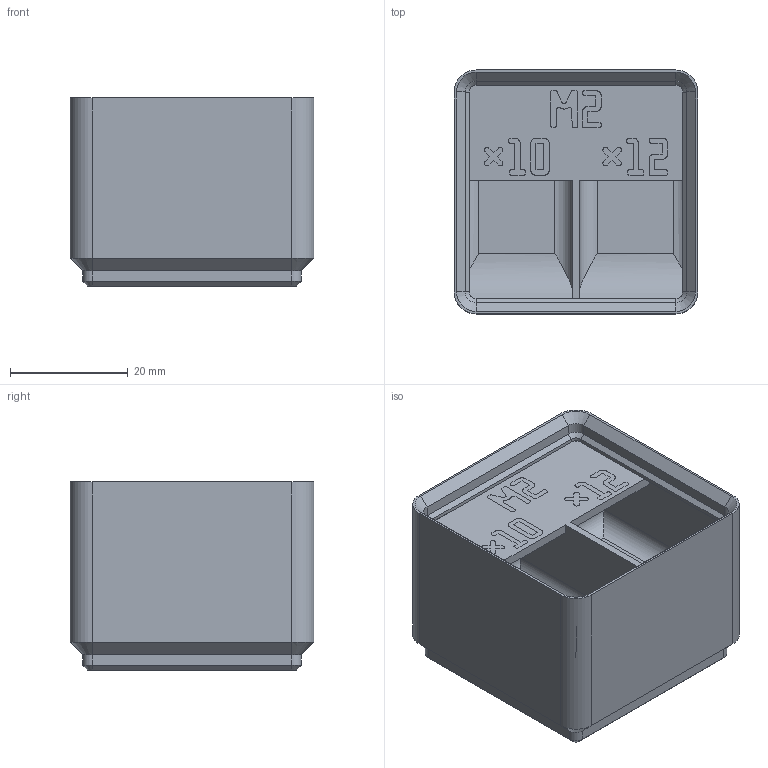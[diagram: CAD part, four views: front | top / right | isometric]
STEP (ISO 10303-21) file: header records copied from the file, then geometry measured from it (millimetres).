
FILE_DESCRIPTION(('Open CASCADE Model'),'2;1');
FILE_NAME('bin_M2_10-12','2026-11-03T10:51:47',('Author'),( 'Open CASCADE'),'Open CASCADE STEP processor 8.0','build123d', 'Unknown');
FILE_SCHEMA(('AUTOMOTIVE_DESIGN { 1 0 10303 214 1 1 1 1 }'));
Length unit declared in the file: millimetre
Products named in the file (3): bin_M2_10-12; M2_10-12_body; M2_10-12_label
Assembly tree (2 placements, depth 2):
  bin_M2_10-12
    M2_10-12_body
    M2_10-12_label
Bounding box: 41.5 x 41.5 x 32 mm (x, y, z)
Volume: 30935.7 mm3; surface area: 12480.9 mm2
Topology: 9 solids, 9 shells, 1670 faces, 4866 edges, 3224 vertices
Faces by surface type: plane 1626, cylinder 24, cone 20
Entity records: 117642 total; most frequent: CARTESIAN_POINT 20395, DIRECTION 17736, LINE 14262, VECTOR 14262, ORIENTED_EDGE 9732, PCURVE 9732, DEFINITIONAL_REPRESENTATION 9732, EDGE_CURVE 4866
